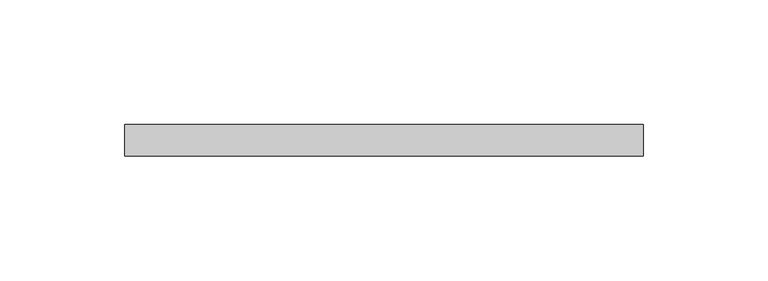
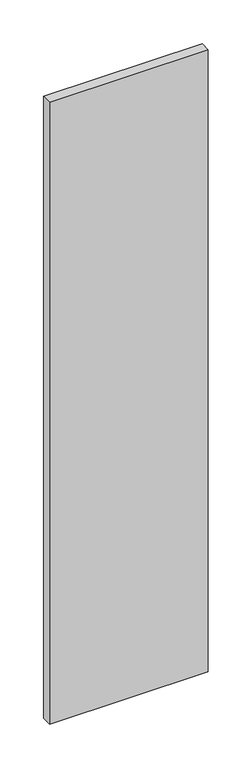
"""IFC4 building model written with IfcOpenShell, lengths in millimetres: proxy geometry, LIVERS_ICN - Glass Panel : LIVERS_ICN - Glass Panel."""

from ifc_helpers import new_model, si_unit, frame, origin, place, context, project, spatial, polyline, outline, extrude, source, transform, mapped, element, save


def building_element_proxy_7167c951(model_context):
    return source(origin(), model_context, "Body", "SweptSolid", [
        extrude(outline(polyline([(737.2644323, 34.1309994), (529.029303, 34.1309994), (529.029303, 46.8311957), (737.2644323, 46.8311957), (737.2644323, 34.1309994)])), frame((0.0, 0.0, 114.3), z_axis=(0.0, 0.0, 1.0), x_axis=(1.0, 0.0, 0.0)), (0.0, 0.0, 1.0), 863.6),
    ])


if __name__ == "__main__":
    model = new_model("IFC4")
    model_context = context("Model", 3, world=origin())
    ifc_project = project(units=[si_unit("LENGTHUNIT", "METRE", prefix="MILLI")], contexts=[model_context])
    site = spatial("IfcSite", under=ifc_project)
    building = spatial("IfcBuilding", under=site)
    placement = place(None, origin())
    building_element_proxy_shape = building_element_proxy_7167c951(model_context)
    element("IfcBuildingElementProxy", 1, Name="LIVERS_ICN - Glass Panel : LIVERS_ICN - Glass Panel", ObjectType="LIVERS_ICN - Glass Panel : LIVERS_ICN - Glass Panel", at=placement, inside=building, context=model_context, shape_type="MappedRepresentation", body=[
        mapped(building_element_proxy_shape, transform((0.0, 0.0, 0.0), x_axis=(1.0, 0.0, 0.0), y_axis=(0.0, 1.0, 0.0), z_axis=(0.0, 0.0, 1.0))),
    ])
    save(model, "model.ifc")
